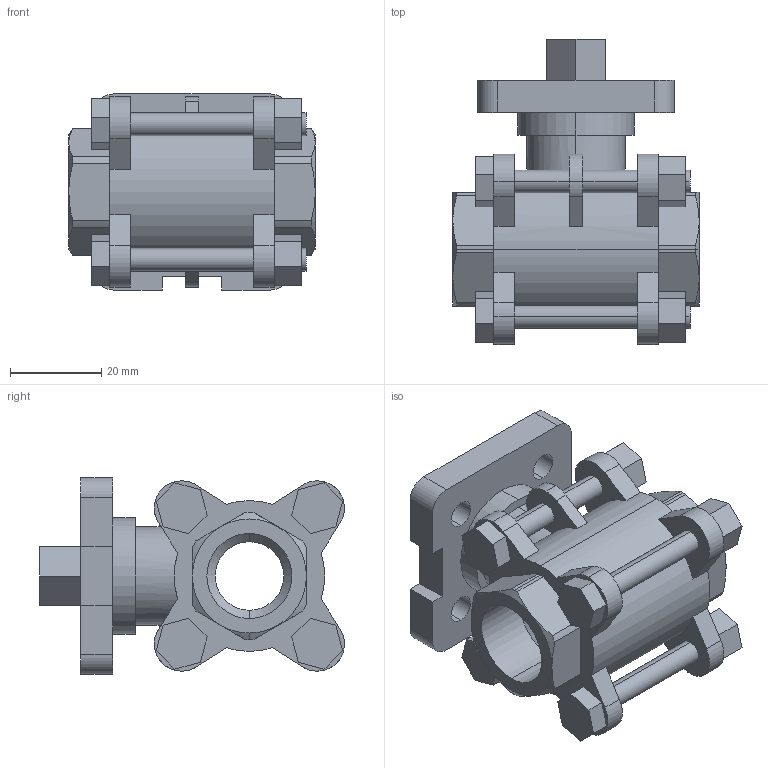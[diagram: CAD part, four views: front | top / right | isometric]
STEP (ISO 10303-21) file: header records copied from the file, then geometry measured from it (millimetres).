
FILE_DESCRIPTION (( 'STEP AP203' ), '1' );
FILE_NAME ('C3.622I0150FVPB0.STEP', '2018-10-12T08:09:45', ( '' ), ( '' ), 'SwSTEP 2.0', 'SolidWorks 2014', '' );
FILE_SCHEMA (( 'CONFIG_CONTROL_DESIGN' ));
Length unit declared in the file: millimetre
Products named in the file (1): C3.622I0150FVPB0
Bounding box: 54 x 66.84 x 43 mm (x, y, z)
Volume: 57332.2 mm3; surface area: 20908.4 mm2
Topology: 1 solids, 1 shells, 223 faces, 588 edges, 385 vertices
Faces by surface type: plane 132, cylinder 73, cone 18
Entity records: 7205 total; most frequent: CARTESIAN_POINT 1448, DIRECTION 1189, ORIENTED_EDGE 1176, EDGE_CURVE 588, AXIS2_PLACEMENT_3D 407, VERTEX_POINT 385, VECTOR 375, LINE 375
